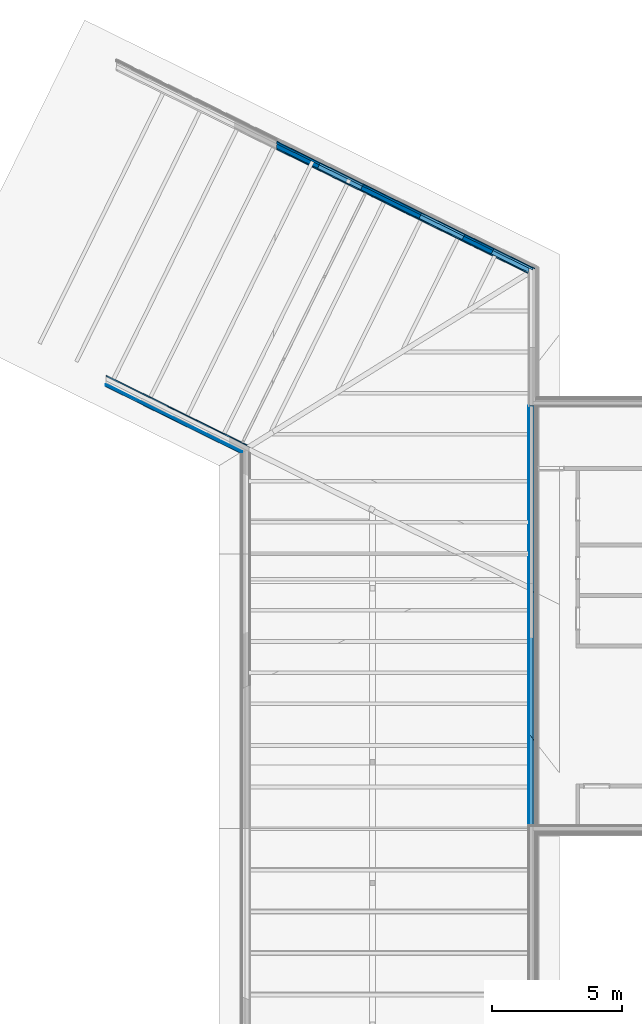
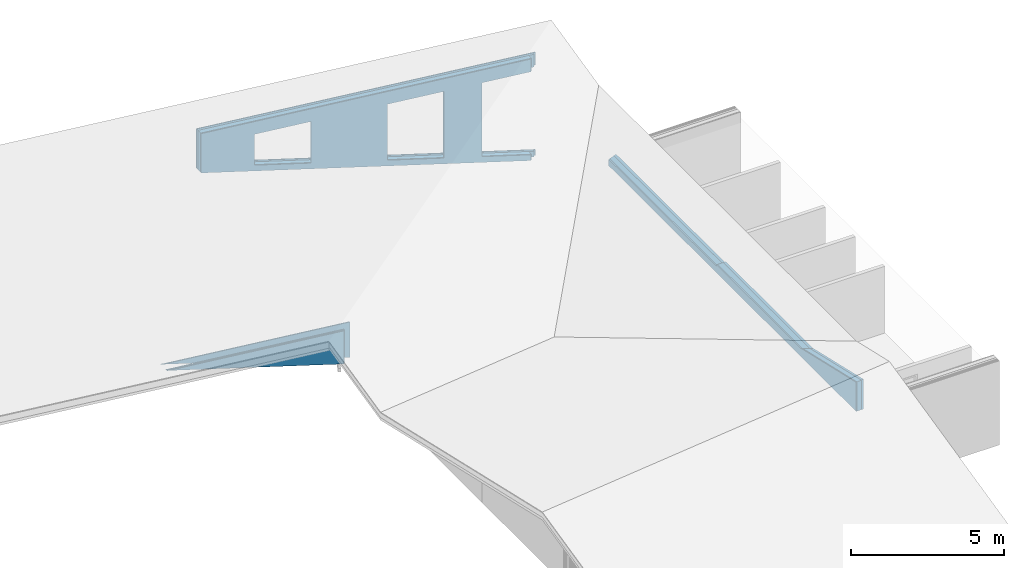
# One storey, part 5 of 14: 11 walls, 12 openings.
"""IFC4 building model written with IfcOpenShell, lengths in metres."""

import ifcopenshell
import ifcopenshell.guid

model = None  # the IFC model being written
_history = None  # IfcOwnerHistory: only IFC2X3 demands one
_inside = {}  # id of a spatial element -> (the spatial element, [elements in it])
_under = {}  # id of a project, library or spatial element -> (it, [spatial elements below it])
_declared = {}  # id of a project -> (the project, [libraries it declares])
_typed = {}  # id of a type object -> (the type object, [elements of that type])
_made_of = {}  # id of a material, layer set ... -> (it, [elements and type objects made of it])


def new_model(schema):
    """Start an empty IFC model of exactly this schema.

    Asked for "IFC4X3", IfcOpenShell would pick the latest addendum, in which some entities
    have other attributes; the version numbers below select the first issue.
    IFC2X3 requires an IfcOwnerHistory on every rooted entity: one is made here for all.
    """
    global model, _history
    if schema == "IFC4X3":
        model = ifcopenshell.file(schema_version=(4, 3, 0, 0))
    else:
        model = ifcopenshell.file(schema=schema)
    _inside.clear()
    _under.clear()
    _declared.clear()
    _typed.clear()
    _made_of.clear()
    _history = None
    if model.schema == "IFC2X3":
        org = make("IfcOrganization", Name="unknown")
        user = make(
            "IfcPersonAndOrganization",
            ThePerson=make("IfcPerson", FamilyName="unknown"),
            TheOrganization=org,
        )
        app = make(
            "IfcApplication",
            ApplicationDeveloper=org,
            Version="unknown",
            ApplicationFullName="unknown",
            ApplicationIdentifier="unknown",
        )
        _history = make(
            "IfcOwnerHistory",
            OwningUser=user,
            OwningApplication=app,
            ChangeAction="ADDED",
            CreationDate=0,
        )
    return model


def make(cls, **values):
    """One entity of the class cls with the attributes given. An attribute that is None is left unset."""
    return model.create_entity(
        cls, **{name: value for name, value in values.items() if value is not None}
    )


def entity(cls, *values):
    """Any entity or typed value of the class cls, its attributes in the order of the schema. None: left unset."""
    e = model.create_entity(cls)
    for i, value in enumerate(values):
        if value is not None:
            e[i] = value
    return e


def rooted(cls, **values):
    """An entity with a GlobalId (a new one), such as an element, a storey or a relation."""
    return make(cls, GlobalId=ifcopenshell.guid.new(), OwnerHistory=_history, **values)


def si_unit(unit_type, name, prefix=None):
    """IfcSIUnit, for example si_unit("LENGTHUNIT", "METRE", prefix="MILLI")."""
    return make("IfcSIUnit", UnitType=unit_type, Prefix=prefix, Name=name)


def converted_unit(unit_type, name, factor, base, dimensions=None, offset=None):
    """IfcConversionBasedUnit, such as the inch: factor (a typed value) times the base unit."""
    return make(
        "IfcConversionBasedUnit"
        if offset is None
        else "IfcConversionBasedUnitWithOffset",
        ConversionOffset=offset,
        Dimensions=None
        if dimensions is None
        else entity("IfcDimensionalExponents", *dimensions),
        UnitType=unit_type,
        Name=name,
        ConversionFactor=make(
            "IfcMeasureWithUnit", ValueComponent=factor, UnitComponent=base
        ),
    )


def derived_unit(unit_type, elements):
    """IfcDerivedUnit: a product of units, each with its exponent."""
    return make(
        "IfcDerivedUnit",
        Elements=[
            make("IfcDerivedUnitElement", Unit=unit, Exponent=power)
            for unit, power in elements
        ],
        UnitType=unit_type,
    )


def assignment(units):
    """IfcUnitAssignment: the units of a project."""
    return None if units is None else make("IfcUnitAssignment", Units=units)


def point(xyz):
    """IfcCartesianPoint."""
    return None if xyz is None else make("IfcCartesianPoint", Coordinates=xyz)


def direction(xyz):
    """IfcDirection."""
    return None if xyz is None else make("IfcDirection", DirectionRatios=xyz)


def frame(location, z_axis=None, x_axis=None):
    """IfcAxis2Placement3D, a coordinate frame: its origin and axes. An axis left out is left unset."""
    return make(
        "IfcAxis2Placement3D",
        Location=point(location),
        Axis=direction(z_axis),
        RefDirection=direction(x_axis),
    )


def frame_2d(location, x_axis=None):
    """IfcAxis2Placement2D, a coordinate frame in the plane: its origin and x axis."""
    return make(
        "IfcAxis2Placement2D", Location=point(location), RefDirection=direction(x_axis)
    )


def origin():
    """The frame at (0, 0, 0) with its axes left unset."""
    return frame((0.0, 0.0, 0.0))


def origin_with_axes():
    """The frame at (0, 0, 0) with the z axis (0, 0, 1) and the x axis (1, 0, 0) written out."""
    return frame((0.0, 0.0, 0.0), z_axis=(0.0, 0.0, 1.0), x_axis=(1.0, 0.0, 0.0))


def place(relative_to, where):
    """IfcLocalPlacement: puts the frame where relative to a parent placement (None: the world)."""
    return make(
        "IfcLocalPlacement", PlacementRelTo=relative_to, RelativePlacement=where
    )


def context(
    kind, dimensions, precision=None, world=None, true_north=None, identifier=None
):
    """IfcGeometricRepresentationContext, for example the 3D "Model" context."""
    return make(
        "IfcGeometricRepresentationContext",
        ContextIdentifier=identifier,
        ContextType=kind,
        CoordinateSpaceDimension=dimensions,
        Precision=precision,
        WorldCoordinateSystem=world,
        TrueNorth=true_north,
    )


def subcontext(parent, identifier, kind, view, scale=None):
    """IfcGeometricRepresentationSubContext, for example "Body" below "Model"."""
    return make(
        "IfcGeometricRepresentationSubContext",
        ContextIdentifier=identifier,
        ContextType=kind,
        ParentContext=parent,
        TargetScale=scale,
        TargetView=view,
    )


def project(units=None, contexts=None):
    """IfcProject with its units and contexts."""
    return rooted(
        "IfcProject",
        Name="project",
        RepresentationContexts=contexts,
        UnitsInContext=assignment(units),
    )


def spatial(cls, under=None, at=None, **own):
    """A site, building, storey or space (cls), placed at a placement, below another one or the project."""
    s = rooted(cls, ObjectPlacement=at, **own)
    if under is not None:
        _under.setdefault(under.id(), (under, []))[1].append(s)
    return s


def polyline(points):
    """IfcPolyline through the points."""
    return make("IfcPolyline", Points=[point(p) for p in points])


def profile(cls, at=None, kind="AREA", **sizes):
    """A parametric profile (cls). Its sizes go by their IFC names, for example OverallWidth=200.0."""
    return make(cls, ProfileType=kind, Position=at, **sizes)


def rectangle(**sizes):
    """IfcRectangleProfileDef."""
    return profile("IfcRectangleProfileDef", **sizes)


def outline(outer, holes=None, kind="AREA"):
    """IfcArbitraryClosedProfileDef: a profile drawn as a closed curve; with holes, ...WithVoids."""
    if holes is None:
        return make("IfcArbitraryClosedProfileDef", ProfileType=kind, OuterCurve=outer)
    return make(
        "IfcArbitraryProfileDefWithVoids",
        ProfileType=kind,
        OuterCurve=outer,
        InnerCurves=holes,
    )


def extrude(swept, where, along, depth):
    """IfcExtrudedAreaSolid: the profile swept, set in the frame where, extruded along a direction by depth."""
    return make(
        "IfcExtrudedAreaSolid",
        SweptArea=swept,
        Position=where,
        ExtrudedDirection=direction(along),
        Depth=depth,
    )


def clip(a, b, op="DIFFERENCE"):
    """IfcBooleanClippingResult: the solid a cut by the half space b."""
    return make(
        "IfcBooleanClippingResult", Operator=op, FirstOperand=a, SecondOperand=b
    )


def halfspace(plane, agree):
    """IfcHalfSpaceSolid: all space on one side of the plane z = 0 of the frame plane."""
    return make(
        "IfcHalfSpaceSolid",
        BaseSurface=make("IfcPlane", Position=plane),
        AgreementFlag=agree,
    )


def bounded_halfspace(plane, agree, where, boundary):
    """IfcPolygonalBoundedHalfSpace: a half space limited to a polygon's prism."""
    return make(
        "IfcPolygonalBoundedHalfSpace",
        BaseSurface=make("IfcPlane", Position=plane),
        AgreementFlag=agree,
        Position=where,
        PolygonalBoundary=boundary,
    )


def faces_of(points, faces, orient=None, outer=None):
    """IfcFace entities. A face is a list of loops; a loop is a list of indices into points, from 0.

    orient and outer hold one flag for each loop. By default every Orientation is true, the
    first loop of a face is its IfcFaceOuterBound and the others are IfcFaceBound.
    """
    made = []
    for i, loops in enumerate(faces):
        bounds = []
        for j, loop in enumerate(loops):
            is_outer = j == 0 if outer is None else outer[i][j]
            bounds.append(
                make(
                    "IfcFaceOuterBound" if is_outer else "IfcFaceBound",
                    Bound=make("IfcPolyLoop", Polygon=[points[k] for k in loop]),
                    Orientation=True if orient is None else orient[i][j],
                )
            )
        made.append(make("IfcFace", Bounds=bounds))
    return made


def faceted_brep(points, faces, orient=None, outer=None, voids=None):
    """IfcFacetedBrep: a solid bounded by flat faces; with voids (closed shells), ...WithVoids."""
    shared = [point(p) for p in points]
    hull = make("IfcClosedShell", CfsFaces=faces_of(shared, faces, orient, outer))
    if voids is None:
        return make("IfcFacetedBrep", Outer=hull)
    return make(
        "IfcFacetedBrepWithVoids",
        Outer=hull,
        Voids=[
            make(cls, CfsFaces=faces_of(shared, fs, o, b)) for cls, fs, o, b in voids
        ],
    )


def shape(context_of_items, identifier, shape_type, items):
    """IfcShapeRepresentation: the items that make up one representation, for example the "Body"."""
    return make(
        "IfcShapeRepresentation",
        ContextOfItems=context_of_items,
        RepresentationIdentifier=identifier,
        RepresentationType=shape_type,
        Items=items,
    )


def material(Name=None, Category=None):
    """IfcMaterial."""
    return make("IfcMaterial", Name=Name, Category=Category)


def made_of(thing, what):
    """Note that an element or type object is made of a material, layer set ...; save() writes the relation."""
    if what is not None:
        _made_of.setdefault(what.id(), (what, []))[1].append(thing)
    return thing


def element(
    cls,
    number,
    at=None,
    inside=None,
    cuts=None,
    type_object=None,
    material=None,
    context=None,
    identifier="Body",
    shape_type=None,
    held_by="IfcProductDefinitionShape",
    body=None,
    shapes=None,
    **own,
):
    """One element of the class cls, such as IfcWall. Its Tag is "e" and its number.

    at: its placement. inside: the storey or other place that contains it. cuts: it is an
    opening in that element (IfcRelVoidsElement). A single representation is given by context,
    identifier, shape_type and body (its items); several are given by shapes. held_by: the class
    of the entity that holds the representations. save() writes the other relations.
    """
    e = rooted(cls, Tag="e%d" % number, ObjectPlacement=at, **own)
    if body is not None:
        shapes = [shape(context, identifier, shape_type, body)]
    if shapes is not None:
        e.Representation = make(held_by, Representations=shapes)
    if inside is not None:
        _inside.setdefault(inside.id(), (inside, []))[1].append(e)
    if cuts is not None:
        rooted(
            "IfcRelVoidsElement", RelatingBuildingElement=cuts, RelatedOpeningElement=e
        )
    if type_object is not None:
        _typed.setdefault(type_object.id(), (type_object, []))[1].append(e)
    return made_of(e, material)


def aggregate(whole, parts):
    """IfcRelAggregates: a whole, such as a stair, and the parts it consists of."""
    return rooted("IfcRelAggregates", RelatingObject=whole, RelatedObjects=parts)


def save(model, path):
    """Write the relations noted so far, then the file.

    IfcRelAggregates (storeys below a building ...), IfcRelContainedInSpatialStructure (elements
    in a storey), IfcRelDefinesByType, IfcRelAssociatesMaterial and IfcRelDeclares: one each for
    every whole, place, type object, material and project.
    """
    for whole, parts in _under.values():
        aggregate(whole, parts)
    for where, things in _inside.values():
        rooted(
            "IfcRelContainedInSpatialStructure",
            RelatedElements=things,
            RelatingStructure=where,
        )
    for kind, things in _typed.values():
        rooted("IfcRelDefinesByType", RelatedObjects=things, RelatingType=kind)
    for what, things in _made_of.values():
        rooted("IfcRelAssociatesMaterial", RelatedObjects=things, RelatingMaterial=what)
    for by, libraries in _declared.values():
        rooted("IfcRelDeclares", RelatingContext=by, RelatedDefinitions=libraries)
    model.write(path)


model = new_model("IFC4")

# Units and contexts
model_context = context("Model", 3, precision=1e-05, world=origin())
body_context = subcontext(model_context, "Body", "Model", "MODEL_VIEW")
ifc_project = project(units=[si_unit("LENGTHUNIT", "METRE"), si_unit("AREAUNIT", "SQUARE_METRE"), si_unit("VOLUMEUNIT", "CUBIC_METRE"), si_unit("MASSUNIT", "GRAM", prefix="KILO"), converted_unit("PLANEANGLEUNIT", "DEGREE", entity("IfcPlaneAngleMeasure", 0.0174532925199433), si_unit("PLANEANGLEUNIT", "RADIAN"), dimensions=[0, 0, 0, 0, 0, 0, 0]), derived_unit("THERMALTRANSMITTANCEUNIT", [(si_unit("POWERUNIT", "WATT"), 1), (si_unit("THERMODYNAMICTEMPERATUREUNIT", "KELVIN"), -1), (si_unit("LENGTHUNIT", "METRE"), -2)]), derived_unit("VOLUMETRICFLOWRATEUNIT", [(si_unit("LENGTHUNIT", "METRE"), 3), (converted_unit("TIMEUNIT", "hour", entity("IfcTimeMeasure", 3600.0), si_unit("TIMEUNIT", "SECOND"), dimensions=[0, 0, 1, 0, 0, 0, 0]), -1), (si_unit("LENGTHUNIT", "METRE"), -1)])], contexts=[model_context])

# Site, building, storey
site_placement = place(None, origin())
site = spatial("IfcSite", under=ifc_project, at=site_placement, Name="Psychiatrie Neubau Wunstorf", CompositionType="ELEMENT")
building_placement = place(site_placement, origin())
building = spatial("IfcBuilding", under=site, at=building_placement, Name="Neubau H1 Sozialzentrum", CompositionType="ELEMENT")
storey_placement = place(building_placement, frame((0.0, 0.0, 4.45)))
storey = spatial("IfcBuildingStorey", under=building, at=storey_placement, Name="H1 Ebene +1", CompositionType="ELEMENT", Elevation=4.45)

# Walls
ifc_material_1 = material(Name="WA-LB")
wall_1_placement = place(storey_placement, frame((-15.8625266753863, 26.5713299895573, -0.161786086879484), z_axis=(0.0, 0.0, 1.0), x_axis=(-0.896905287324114, 0.442222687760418, 0.0)))
element("IfcWall", 1, at=wall_1_placement, inside=storey, material=ifc_material_1, context=body_context, shape_type="Clipping", body=[
    clip(clip(clip(clip(clip(extrude(outline(polyline([(-4.95448464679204, -2.48757993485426), (1.22578052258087, -2.48757993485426), (1.20876112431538, -2.45157987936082), (-4.97223461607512, -2.45157987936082), (-4.95448464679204, -2.48757993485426)])), frame((4.95448464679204, 2.48757993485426, 0.0), z_axis=(0.0, 0.0, 1.0), x_axis=(1.0, 0.0, 0.0)), (0.0, 0.0, 1.0), 1.42148967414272), bounded_halfspace(frame((6.1461335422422, 0.018000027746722, 0.00589304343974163), z_axis=(0.222899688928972, 0.105378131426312, 0.969129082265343), x_axis=(-0.427404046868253, 0.904060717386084, 0.0)), True, origin_with_axes(), polyline([(6.18026516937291, 0.0), (6.16324577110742, 0.0360000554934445), (6.11200191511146, 0.0360000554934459), (6.12902131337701, 0.0), (6.18026516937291, 0.0)]))), bounded_halfspace(frame((3.05581831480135, 0.0180000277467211, 0.0117860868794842), z_axis=(-7.41913311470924e-17, 1.25960238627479e-14, 1.0), x_axis=(1.0, -5.55111512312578e-17, 0.0)), True, origin_with_axes(), polyline([(0.0, 0.0), (6.12902131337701, 0.0), (6.11200191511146, 0.0360000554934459), (-0.0177499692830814, 0.0360000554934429), (0.0, 0.0)]))), bounded_halfspace(frame((6.1461335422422, 0.0180000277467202, 0.0117860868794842), z_axis=(0.0, 0.0, -1.0), x_axis=(-1.0, 2.96429547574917e-14, 0.0)), True, origin_with_axes(), polyline([(6.16324577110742, 0.0360000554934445), (6.11200191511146, 0.0360000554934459), (6.12902131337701, 0.0), (6.18026516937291, 0.0), (6.16324577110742, 0.0360000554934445)]))), bounded_halfspace(frame((2.45081020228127, 0.0155636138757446, 0.856082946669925), z_axis=(-0.222900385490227, -0.105357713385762, -0.969131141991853), x_axis=(0.974555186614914, 0.0, -0.224147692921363)), True, origin_with_axes(), polyline([(0.0, 0.0), (6.12902131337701, 0.0), (6.11200191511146, 0.0360000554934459), (0.0158963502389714, 0.0360000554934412), (-0.00286856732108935, 0.00581795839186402), (0.0, 0.0)]))), bounded_halfspace(frame((-0.00157406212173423, 0.0259393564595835, 1.41637714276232), z_axis=(0.00409122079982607, -0.246504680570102, -0.969132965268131), x_axis=(-0.999991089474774, 5.21804821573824e-14, -0.004221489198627)), True, origin_with_axes(), polyline([(0.0158963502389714, 0.0360000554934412), (-0.0177499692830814, 0.0360000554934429), (-0.00286856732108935, 0.00581795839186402), (0.0158963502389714, 0.0360000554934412)]))),
])
ifc_material_2 = material(Name="WA-KL")
wall_2_placement = place(storey_placement, frame((-16.1745267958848, 26.3772999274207, -0.161786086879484), z_axis=(0.0, 0.0, 1.0), x_axis=(-0.896905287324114, 0.442222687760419, 0.0)))
element("IfcWall", 2, at=wall_2_placement, inside=storey, material=ifc_material_2, context=body_context, shape_type="Clipping", body=[
    clip(clip(clip(clip(clip(extrude(outline(polyline([(-4.68546425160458, -2.34002108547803), (1.15326957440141, -2.34002108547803), (1.14192332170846, -2.31602107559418), (-4.69729755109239, -2.31602107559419), (-4.68546425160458, -2.34002108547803)])), frame((4.68546425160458, 2.34002108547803, 0.0), z_axis=(0.0, 0.0, 1.0), x_axis=(1.0, 0.0, 0.0)), (0.0, 0.0, 1.0), 1.34293768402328), bounded_halfspace(frame((5.80743877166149, 0.0120000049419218, 0.00589304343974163), z_axis=(0.222899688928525, 0.1053781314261, 0.969129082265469), x_axis=(-0.42740404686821, 0.904060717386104, 0.0)), True, origin_with_axes(), polyline([(5.83873382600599, 0.0), (5.82738757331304, 0.0240000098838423), (5.77614371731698, 0.0240000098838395), (5.78748997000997, 0.0), (5.83873382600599, 0.0)]))), bounded_halfspace(frame((2.88795009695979, 0.0120000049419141, 0.0117860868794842), z_axis=(0.0, 0.0, 1.0), x_axis=(1.0, 5.55111512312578e-17, 0.0)), True, origin_with_axes(), polyline([(0.0, 0.0), (5.78748997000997, 0.0), (5.77614371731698, 0.0240000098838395), (-0.0118332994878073, 0.0240000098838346), (0.0, 0.0)]))), bounded_halfspace(frame((5.8074387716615, 0.0120000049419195, 0.0117860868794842), z_axis=(0.0, 0.0, -1.0), x_axis=(-1.0, -5.52335954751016e-14, 0.0)), True, origin_with_axes(), polyline([(5.82738757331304, 0.0240000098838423), (5.77614371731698, 0.0240000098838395), (5.78748997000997, 0.0), (5.83873382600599, 0.0), (5.82738757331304, 0.0240000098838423)]))), bounded_halfspace(frame((2.31382507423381, 0.0107729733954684, 0.809558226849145), z_axis=(-0.222900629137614, -0.105347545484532, -0.969132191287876), x_axis=(0.974555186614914, 5.55111512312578e-17, -0.224147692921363)), True, origin_with_axes(), polyline([(0.0, 0.0), (5.78748997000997, 0.0), (5.77614371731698, 0.0240000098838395), (0.00838336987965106, 0.0240000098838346), (-0.00289168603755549, 0.00586484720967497), (0.0, 0.0)]))), bounded_halfspace(frame((-0.00211387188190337, 0.017954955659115, 1.33986577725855), z_axis=(0.00409122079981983, -0.246504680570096, -0.969132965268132), x_axis=(-0.999991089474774, -1.94289029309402e-15, -0.00422148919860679)), True, origin_with_axes(), polyline([(0.00838336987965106, 0.0240000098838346), (-0.0118332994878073, 0.0240000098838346), (-0.00289168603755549, 0.00586484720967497), (0.00838336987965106, 0.0240000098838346)]))),
])
ifc_material_3 = material(Name="WA-TL")
wall_3_placement = place(storey_placement, frame((-16.1985268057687, 26.3623745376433, -0.161786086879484), z_axis=(0.0, 0.0, 1.0), x_axis=(-0.896905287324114, 0.442222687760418, 0.0)))
element("IfcWall", 3, at=wall_3_placement, inside=storey, material=ifc_material_3, context=body_context, shape_type="Clipping", body=[
    clip(clip(clip(clip(clip(extrude(outline(polyline([(-4.66433031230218, -2.32960092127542), (1.14813187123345, -2.32960092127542), (1.13678561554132, -2.30560090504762), (-4.67616361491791, -2.30560090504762), (-4.66433031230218, -2.32960092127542)])), frame((4.66433031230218, 2.32960092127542, 0.0), z_axis=(0.0, 0.0, 1.0), x_axis=(1.0, 0.0, 0.0)), (0.0, 0.0, 1.0), 1.3368952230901), bounded_halfspace(frame((5.78116712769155, 0.0120000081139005, 0.00589304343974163), z_axis=(0.2228996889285, 0.105378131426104, 0.969129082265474), x_axis=(-0.427404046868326, 0.904060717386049, 0.0)), True, origin_with_axes(), polyline([(5.81246218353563, 0.0), (5.80111592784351, 0.0240000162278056), (5.74987207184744, 0.0240000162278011), (5.7612183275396, 0.0), (5.81246218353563, 0.0)]))), bounded_halfspace(frame((2.87481427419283, 0.0120000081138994, 0.0117860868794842), z_axis=(0.0, 0.0, 1.0), x_axis=(1.0, 5.55111512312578e-17, 0.0)), True, origin_with_axes(), polyline([(0.0, 0.0), (5.7612183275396, 0.0), (5.74987207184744, 0.0240000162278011), (-0.0118333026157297, 0.0240000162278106), (0.0, 0.0)]))), bounded_halfspace(frame((5.78116712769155, 0.0120000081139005, 0.0117860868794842), z_axis=(0.0, 0.0, -1.0), x_axis=(-1.0, -8.57092175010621e-14, 0.0)), True, origin_with_axes(), polyline([(5.80111592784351, 0.0240000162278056), (5.74987207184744, 0.0240000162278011), (5.7612183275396, 0.0), (5.81246218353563, 0.0), (5.80111592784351, 0.0240000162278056)]))), bounded_halfspace(frame((2.30331525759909, 0.0107736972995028, 0.805932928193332), z_axis=(-0.222900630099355, -0.105347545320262, -0.969132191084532), x_axis=(0.974555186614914, 5.55111512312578e-17, -0.224147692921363)), True, origin_with_axes(), polyline([(0.0, 0.0), (5.7612183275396, 0.0), (5.74987207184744, 0.0240000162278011), (0.00837935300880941, 0.0240000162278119), (-0.00289346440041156, 0.00586845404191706), (0.0, 0.0)]))), bounded_halfspace(frame((-0.00211580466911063, 0.0179561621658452, 1.33382392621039), z_axis=(0.00409122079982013, -0.246504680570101, -0.969132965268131), x_axis=(-0.999991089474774, -6.38933350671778e-14, -0.00422148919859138)), True, origin_with_axes(), polyline([(0.00837935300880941, 0.0240000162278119), (-0.0118333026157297, 0.0240000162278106), (-0.00289346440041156, 0.00586845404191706), (0.00837935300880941, 0.0240000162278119)]))),
])
ifc_material_4 = material(Name="WA-HS")
wall_4_placement = place(storey_placement, frame((-16.2225268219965, 26.3474491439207, -0.161786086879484), z_axis=(0.0, 0.0, 1.0), x_axis=(-0.896905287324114, 0.442222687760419, 0.0)))
element("IfcWall", 4, at=wall_4_placement, inside=storey, material=ifc_material_4, context=body_context, shape_type="Clipping", body=[
    clip(clip(clip(clip(clip(extrude(outline(polyline([(-4.63461525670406, -2.33732561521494), (1.15157527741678, -2.33732561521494), (1.13171934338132, -2.29532561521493), (-4.65532352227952, -2.29532561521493), (-4.63461525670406, -2.33732561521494)])), frame((4.63461525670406, 2.33732561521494, 0.0), z_axis=(0.0, 0.0, 1.0), x_axis=(1.0, 0.0, 0.0)), (0.0, 0.0, 1.0), 1.3308527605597), bounded_halfspace(frame((5.75064063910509, 0.0210000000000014, 0.00589304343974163), z_axis=(0.222899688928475, 0.105378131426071, 0.969129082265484), x_axis=(-0.427404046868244, 0.904060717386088, 0.0)), True, origin_with_axes(), polyline([(5.78619053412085, 0.0), (5.76633460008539, 0.0420000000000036), (5.7150907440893, 0.0420000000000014), (5.73494667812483, 0.0), (5.78619053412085, 0.0)]))), bounded_halfspace(frame((2.85733228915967, 0.0209999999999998, 0.0117860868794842), z_axis=(0.0, 0.0, 1.0), x_axis=(1.0, 5.55111512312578e-17, 0.0)), True, origin_with_axes(), polyline([(0.0, 0.0), (5.73494667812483, 0.0), (5.7150907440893, 0.0420000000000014), (-0.0207082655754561, 0.0420000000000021), (0.0, 0.0)]))), bounded_halfspace(frame((5.75064063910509, 0.0210000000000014, 0.0117860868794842), z_axis=(0.0, 0.0, -1.0), x_axis=(-1.0, -5.26800825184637e-14, 0.0)), True, origin_with_axes(), polyline([(5.76633460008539, 0.0420000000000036), (5.7150907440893, 0.0420000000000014), (5.73494667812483, 0.0), (5.78619053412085, 0.0), (5.76633460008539, 0.0420000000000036)]))), bounded_halfspace(frame((2.29334170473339, 0.0179744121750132, 0.801401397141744), z_axis=(-0.222900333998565, -0.105360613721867, -0.969130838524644), x_axis=(0.974555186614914, 1.11022302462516e-16, -0.224147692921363)), True, origin_with_axes(), polyline([(0.0, 0.0), (5.73494667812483, 0.0), (5.7150907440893, 0.0420000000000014), (0.0195663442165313, 0.042000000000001), (-0.00289524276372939, 0.00587206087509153), (0.0, 0.0)]))), bounded_halfspace(frame((-0.00134572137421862, 0.0299573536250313, 1.32473306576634), z_axis=(0.00409122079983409, -0.246504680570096, -0.969132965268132), x_axis=(-0.999991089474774, 2.84772205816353e-14, -0.00422148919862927)), True, origin_with_axes(), polyline([(0.0195663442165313, 0.042000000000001), (-0.0207082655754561, 0.0420000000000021), (-0.00289524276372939, 0.00587206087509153), (0.0195663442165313, 0.042000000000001)]))),
])

# Wall, openings
ifc_material_5 = material(Name="WA-LB")
wall_5_placement = place(storey_placement, frame((-14.852996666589, 37.9944028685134, -0.1), z_axis=(0.0, 0.0, 1.0), x_axis=(0.896905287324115, -0.442222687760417, 0.0)))
wall_5 = element("IfcWall", 5, at=wall_5_placement, inside=storey, material=ifc_material_5, context=body_context, shape_type="Clipping", body=[
    clip(extrude(outline(polyline([(-2.11203472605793, 4.28357740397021), (8.68784738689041, 4.28357740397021), (8.67009741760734, 4.31957745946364), (-2.12904798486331, 4.31957745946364), (-2.11203472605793, 4.28357740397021)])), frame((2.11203472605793, -4.28357740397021, 0.0), z_axis=(0.0, 0.0, 1.0), x_axis=(1.0, 0.0, 0.0)), (0.0, 0.0, 1.0), 4.05262443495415), halfspace(frame((5.39125024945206, 0.018000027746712, 2.81059633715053), z_axis=(0.222899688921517, 0.105378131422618, -0.96912908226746), x_axis=(0.974555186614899, 0.0, 0.224147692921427)), True)),
])
opening_1_placement = place(wall_5_placement, frame((2.10961584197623, -0.733768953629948, 0.23)))
element("IfcOpeningElement", 6, at=opening_1_placement, cuts=wall_5, Name="Fensteröffnung", ObjectType="Opening", context=body_context, shape_type="Brep", body=[
    faceted_brep([(1.48821232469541, 0.733768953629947, 0.0), (1.48821232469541, 0.769769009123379, 0.0), (-0.361787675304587, 0.769769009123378, 0.0), (-0.361787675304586, 0.733768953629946, 0.0), (1.48821232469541, 0.769769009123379, 1.66185257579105), (1.48821232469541, 0.733768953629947, 1.65793811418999), (-0.361787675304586, 0.733768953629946, 1.23243811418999), (-0.361787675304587, 0.769769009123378, 1.23635257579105)], [[[0, 1, 2, 3]], [[4, 5, 6, 7]], [[1, 0, 5, 4]], [[2, 1, 4, 7]], [[3, 2, 7, 6]], [[0, 3, 6, 5]]], orient=[[False], [False], [False], [False], [False], [False]]),
])
opening_2_placement = place(wall_5_placement, frame((9.1978309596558, 0.0, 0.23)))
element("IfcOpeningElement", 7, at=opening_2_placement, cuts=wall_5, Name="Fensteröffnung", ObjectType="Opening", context=body_context, shape_type="Brep", body=[
    faceted_brep([(1.60205115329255, 0.0, 0.0), (0.0, 0.0, 0.0), (0.0, 0.0, 2.94593875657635), (1.60205115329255, 0.0, 3.31441052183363), (0.0, 0.0360000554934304, 0.0), (0.0, 0.0360000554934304, 2.94985321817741), (1.62443924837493, 0.0360000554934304, 0.0), (1.62443924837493, 0.0360000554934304, 3.32347424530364)], [[[0, 1, 2, 3]], [[1, 4, 5, 2]], [[4, 6, 7, 5]], [[6, 0, 3, 7]], [[7, 3, 2, 5]], [[0, 6, 4, 1]]], orient=[[False], [False], [False], [False], [False], [False]]),
])
opening_3_placement = place(wall_5_placement, frame((6.45961863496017, -0.733768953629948, 0.23)))
element("IfcOpeningElement", 8, at=opening_3_placement, cuts=wall_5, Name="Fensteröffnung", ObjectType="Opening", context=body_context, shape_type="Brep", body=[
    faceted_brep([(1.48821232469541, 0.733768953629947, 0.0), (1.48821232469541, 0.769769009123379, 0.0), (-0.361787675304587, 0.769769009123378, 0.0), (-0.361787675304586, 0.733768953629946, 0.0), (1.48821232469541, 0.769769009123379, 2.66235321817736), (1.48821232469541, 0.733768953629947, 2.6584387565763), (-0.361787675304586, 0.733768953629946, 2.2329387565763), (-0.361787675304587, 0.769769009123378, 2.23685321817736)], [[[0, 1, 2, 3]], [[4, 5, 6, 7]], [[1, 0, 5, 4]], [[2, 1, 4, 7]], [[3, 2, 7, 6]], [[0, 3, 6, 5]]], orient=[[False], [False], [False], [False], [False], [False]]),
])

ifc_material_6 = material(Name="WA-HD")
wall_6_placement = place(storey_placement, frame((-14.8523359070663, 38.0342151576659, -0.1), z_axis=(0.0, 0.0, 1.0), x_axis=(0.896905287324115, -0.442222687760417, 0.0)))
wall_6 = element("IfcWall", 9, at=wall_6_placement, inside=storey, material=ifc_material_6, context=body_context, shape_type="Clipping", body=[
    clip(extrude(outline(polyline([(-2.11974008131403, 4.29920521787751), (8.71954333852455, 4.29920521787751), (8.64065468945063, 4.45920525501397), (-2.19535446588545, 4.45920525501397), (-2.11974008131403, 4.29920521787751)])), frame((2.11974008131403, -4.29920521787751, 0.0), z_axis=(0.0, 0.0, 1.0), x_axis=(1.0, 0.0, 0.0)), (0.0, 0.0, 1.0), 4.06168814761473), halfspace(frame((5.38101595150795, 0.0800000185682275, 2.81498542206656), z_axis=(0.222899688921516, 0.105378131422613, -0.96912908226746), x_axis=(0.974555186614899, 0.0, 0.224147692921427)), True)),
])
opening_4_placement = place(wall_6_placement, frame((2.1266291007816, -0.733768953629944, 0.23)))
element("IfcOpeningElement", 10, at=opening_4_placement, cuts=wall_6, Name="Fensteröffnung", ObjectType="Opening", context=body_context, shape_type="Brep", body=[
    faceted_brep([(1.48821232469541, 0.733768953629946, 0.0), (1.48821232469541, 0.893768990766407, 0.0), (-0.361787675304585, 0.893768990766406, 0.0), (-0.361787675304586, 0.733768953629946, 0.0), (1.48821232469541, 0.893768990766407, 1.67925016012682), (1.48821232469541, 0.733768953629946, 1.66185257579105), (-0.361787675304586, 0.733768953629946, 1.23635257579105), (-0.361787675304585, 0.893768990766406, 1.25375016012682)], [[[0, 1, 2, 3]], [[4, 5, 6, 7]], [[1, 0, 5, 4]], [[2, 1, 4, 7]], [[3, 2, 7, 6]], [[0, 3, 6, 5]]], orient=[[False], [False], [False], [False], [False], [False]]),
])
opening_5_placement = place(wall_6_placement, frame((9.21484421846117, 0.0, 0.23)))
element("IfcOpeningElement", 11, at=opening_5_placement, cuts=wall_6, Name="Fensteröffnung", ObjectType="Opening", context=body_context, shape_type="Brep", body=[
    faceted_brep([(1.62443924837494, 0.0, 0.0), (0.0, 0.0, 0.0), (0.0, 0.0, 2.94985321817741), (1.62443924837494, 0.0, 3.32347424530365), (0.0, 0.160000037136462, 0.0), (0.0, 0.160000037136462, 2.96725080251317), (1.72394176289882, 0.160000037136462, 0.0), (1.72394176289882, 0.160000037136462, 3.3637574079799)], [[[0, 1, 2, 3]], [[1, 4, 5, 2]], [[4, 6, 7, 5]], [[6, 0, 3, 7]], [[7, 3, 2, 5]], [[0, 6, 4, 1]]], orient=[[False], [False], [False], [False], [False], [False]]),
])
opening_6_placement = place(wall_6_placement, frame((6.47663189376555, -0.733768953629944, 0.23)))
element("IfcOpeningElement", 12, at=opening_6_placement, cuts=wall_6, Name="Fensteröffnung", ObjectType="Opening", context=body_context, shape_type="Brep", body=[
    faceted_brep([(1.48821232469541, 0.733768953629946, 0.0), (1.48821232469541, 0.893768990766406, 0.0), (-0.361787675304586, 0.893768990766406, 0.0), (-0.361787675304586, 0.733768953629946, 0.0), (1.48821232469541, 0.893768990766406, 2.67975080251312), (1.48821232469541, 0.733768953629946, 2.66235321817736), (-0.361787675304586, 0.733768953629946, 2.23685321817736), (-0.361787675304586, 0.893768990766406, 2.25425080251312)], [[[0, 1, 2, 3]], [[4, 5, 6, 7]], [[1, 0, 5, 4]], [[2, 1, 4, 7]], [[3, 2, 7, 6]], [[0, 3, 6, 5]]], orient=[[False], [False], [False], [False], [False], [False]]),
])

ifc_material_7 = material(Name="WA-DL")
wall_7_placement = place(storey_placement, frame((-14.849399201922, 38.2111584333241, -0.1), z_axis=(0.0, 0.0, 1.0), x_axis=(0.896905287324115, -0.442222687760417, 0.0)))
wall_7 = element("IfcWall", 13, at=wall_7_placement, inside=storey, material=ifc_material_7, context=body_context, shape_type="Clipping", body=[
    clip(extrude(outline(polyline([(-2.15398610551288, 4.36866217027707), (8.8604142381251, 4.36866217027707), (8.82096991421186, 4.44866218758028), (-2.19179329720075, 4.44866218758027), (-2.15398610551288, 4.36866217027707)])), frame((2.15398610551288, -4.36866217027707, 0.0), z_axis=(0.0, 0.0, 1.0), x_axis=(1.0, 0.0, 0.0)), (0.0, 0.0, 1.0), 4.10197131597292), halfspace(frame((5.48788729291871, 0.0400000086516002, 2.83522271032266), z_axis=(0.222899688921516, 0.105378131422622, -0.96912908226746), x_axis=(0.9745551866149, 5.55111512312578e-17, 0.224147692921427)), True)),
])
opening_7_placement = place(wall_7_placement, frame((2.20224348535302, -0.733768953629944, 0.23)))
element("IfcOpeningElement", 14, at=opening_7_placement, cuts=wall_7, Name="Fensteröffnung", ObjectType="Opening", context=body_context, shape_type="Brep", body=[
    faceted_brep([(1.48821232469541, 0.733768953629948, 0.0), (1.48821232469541, 0.813768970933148, 0.0), (-0.361787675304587, 0.813768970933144, 0.0), (-0.361787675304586, 0.733768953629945, 0.0), (1.48821232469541, 0.813768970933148, 1.68794895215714), (1.48821232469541, 0.733768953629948, 1.67925016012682), (-0.361787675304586, 0.733768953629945, 1.25375016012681), (-0.361787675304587, 0.813768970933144, 1.26244895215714)], [[[0, 1, 2, 3]], [[4, 5, 6, 7]], [[1, 0, 5, 4]], [[2, 1, 4, 7]], [[3, 2, 7, 6]], [[0, 3, 6, 5]]], orient=[[False], [False], [False], [False], [False], [False]]),
])
opening_8_placement = place(wall_7_placement, frame((9.2904586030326, 0.0, 0.23)))
element("IfcOpeningElement", 15, at=opening_8_placement, cuts=wall_7, Name="Fensteröffnung", ObjectType="Opening", context=body_context, shape_type="Brep", body=[
    faceted_brep([(1.72394176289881, 0.0, 0.0), (0.0, 0.0, 0.0), (0.0, 0.0, 2.96725080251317), (1.72394176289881, 0.0, 3.3637574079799), (0.0, 0.0800000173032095, 0.0), (0.0, 0.0800000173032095, 2.9759495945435), (1.77369301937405, 0.0800000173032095, 0.0), (1.77369301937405, 0.0800000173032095, 3.38389898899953)], [[[0, 1, 2, 3]], [[1, 4, 5, 2]], [[4, 6, 7, 5]], [[6, 0, 3, 7]], [[7, 3, 2, 5]], [[0, 6, 4, 1]]], orient=[[False], [False], [False], [False], [False], [False]]),
])
opening_9_placement = place(wall_7_placement, frame((6.55224627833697, -0.733768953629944, 0.23)))
element("IfcOpeningElement", 16, at=opening_9_placement, cuts=wall_7, Name="Fensteröffnung", ObjectType="Opening", context=body_context, shape_type="Brep", body=[
    faceted_brep([(1.48821232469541, 0.733768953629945, 0.0), (1.48821232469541, 0.813768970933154, 0.0), (-0.361787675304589, 0.813768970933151, 0.0), (-0.361787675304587, 0.733768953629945, 0.0), (1.48821232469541, 0.813768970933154, 2.68844959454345), (1.48821232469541, 0.733768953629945, 2.67975080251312), (-0.361787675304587, 0.733768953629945, 2.25425080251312), (-0.361787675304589, 0.813768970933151, 2.26294959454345)], [[[0, 1, 2, 3]], [[4, 5, 6, 7]], [[1, 0, 5, 4]], [[2, 1, 4, 7]], [[3, 2, 7, 6]], [[0, 3, 6, 5]]], orient=[[False], [False], [False], [False], [False], [False]]),
])

ifc_material_8 = material(Name="WA-LB")
wall_8_placement = place(storey_placement, frame((-14.847930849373, 38.2996300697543, -0.1), z_axis=(0.0, 0.0, 1.0), x_axis=(0.896905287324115, -0.442222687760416, 0.0)))
wall_8 = element("IfcWall", 17, at=wall_8_placement, inside=storey, material=ifc_material_8, context=body_context, shape_type="Clipping", body=[
    clip(extrude(outline(polyline([(-2.17110911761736, 4.40339064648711), (8.9308496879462, 4.40339064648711), (8.91309974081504, 4.43939065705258), (-2.18812235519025, 4.43939065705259), (-2.17110911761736, 4.40339064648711)])), frame((2.17110911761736, -4.40339064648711, 0.0), z_axis=(0.0, 0.0, 1.0), x_axis=(1.0, 0.0, 0.0)), (0.0, 0.0, 1.0), 4.12211290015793), halfspace(frame((5.54228860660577, 0.0180000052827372, 2.84534598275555), z_axis=(0.222899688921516, 0.105378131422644, -0.969129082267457), x_axis=(0.9745551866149, -5.55111512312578e-17, 0.224147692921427)), True)),
])
opening_10_placement = place(wall_8_placement, frame((2.2400506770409, -0.733768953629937, 0.23)))
element("IfcOpeningElement", 18, at=opening_10_placement, cuts=wall_8, Name="Fensteröffnung", ObjectType="Opening", context=body_context, shape_type="Brep", body=[
    faceted_brep([(1.48821232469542, 0.733768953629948, 0.0), (1.48821232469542, 0.769768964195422, 0.0), (-0.361787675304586, 0.769768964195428, 0.0), (-0.361787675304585, 0.733768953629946, 0.0), (1.48821232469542, 0.769768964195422, 1.69186340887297), (1.48821232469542, 0.733768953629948, 1.68794895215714), (-0.361787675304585, 0.733768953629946, 1.26244895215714), (-0.361787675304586, 0.769768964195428, 1.26636340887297)], [[[0, 1, 2, 3]], [[4, 5, 6, 7]], [[1, 0, 5, 4]], [[2, 1, 4, 7]], [[3, 2, 7, 6]], [[0, 3, 6, 5]]], orient=[[False], [False], [False], [False], [False], [False]]),
])
opening_11_placement = place(wall_8_placement, frame((9.32826579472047, 0.0, 0.23)))
element("IfcOpeningElement", 19, at=opening_11_placement, cuts=wall_8, Name="Fensteröffnung", ObjectType="Opening", context=body_context, shape_type="Brep", body=[
    faceted_brep([(1.77369301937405, 0.0, 0.0), (0.0, 0.0, 0.0), (0.0, 0.0, 2.9759495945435), (1.77369301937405, 0.0, 3.38389898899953), (0.0, 0.0360000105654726, 0.0), (0.0, 0.0360000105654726, 2.97986405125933), (1.79608108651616, 0.036000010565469, 0.0), (1.79608108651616, 0.036000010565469, 3.39296270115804)], [[[0, 1, 2, 3]], [[1, 4, 5, 2]], [[4, 6, 7, 5]], [[6, 0, 3, 7]], [[7, 3, 2, 5]], [[0, 6, 4, 1]]], orient=[[False], [False], [False], [False], [False], [False]]),
])
opening_12_placement = place(wall_8_placement, frame((6.59005347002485, -0.733768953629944, 0.23)))
element("IfcOpeningElement", 20, at=opening_12_placement, cuts=wall_8, Name="Fensteröffnung", ObjectType="Opening", context=body_context, shape_type="Brep", body=[
    faceted_brep([(1.48821232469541, 0.733768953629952, 0.0), (1.48821232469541, 0.769768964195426, 0.0), (-0.36178767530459, 0.769768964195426, 0.0), (-0.36178767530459, 0.733768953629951, 0.0), (1.48821232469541, 0.769768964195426, 2.69236405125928), (1.48821232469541, 0.733768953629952, 2.68844959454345), (-0.36178767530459, 0.733768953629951, 2.26294959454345), (-0.36178767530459, 0.769768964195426, 2.26686405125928)], [[[0, 1, 2, 3]], [[4, 5, 6, 7]], [[1, 0, 5, 4]], [[2, 1, 4, 7]], [[3, 2, 7, 6]], [[0, 3, 6, 5]]], orient=[[False], [False], [False], [False], [False], [False]]),
])

# Walls
ifc_material_9 = material(Name="WA-LB")
wall_9_placement = place(storey_placement, frame((-5.16652529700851, 28.1302445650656, 2.78), z_axis=(0.0, 0.0, 1.0), x_axis=(-1.124638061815e-16, -1.0, 0.0)))
element("IfcWall", 21, at=wall_9_placement, inside=storey, material=ifc_material_9, context=body_context, shape_type="Clipping", body=[
    clip(clip(clip(extrude(rectangle(XDim=16.1739982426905, YDim=0.0359999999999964, at=frame_2d((8.08699912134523, 0.0179999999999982), x_axis=(1.0, 0.0))), origin_with_axes(), (0.0, 0.0, 1.0), 1.16828108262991), bounded_halfspace(frame((14.3878904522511, 0.0179999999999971, 0.75551976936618), z_axis=(0.222900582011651, 0.105340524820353, -0.969132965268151), x_axis=(-0.974555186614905, -1.09602185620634e-16, -0.224147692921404)), True, origin_with_axes(), polyline([(16.1739982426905, 0.0359999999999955), (12.6249495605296, 0.0359999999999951), (12.5786157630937, 0.0), (16.1739982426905, 0.0), (16.1739982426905, 0.0359999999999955)]))), bounded_halfspace(frame((3.53001229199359, 0.0179999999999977, 0.265434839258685), z_axis=(-8.71110270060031e-15, 0.37515708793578, -0.926961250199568), x_axis=(0.415683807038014, 0.843079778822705, 0.341208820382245)), True, origin_with_axes(), polyline([(7.0511496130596, 0.0), (7.06889955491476, 0.0359999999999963), (0.0, 0.0359999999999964), (0.0, 0.0), (7.0511496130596, 0.0)]))), bounded_halfspace(frame((9.83090362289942, 0.0179999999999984, 0.330162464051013), z_axis=(-8.57596917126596e-15, 0.375157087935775, -0.92696125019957), x_axis=(-0.41568380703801, -0.843079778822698, -0.341208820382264)), True, origin_with_axes(), polyline([(7.06889955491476, 0.0359999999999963), (7.0511496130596, 0.0), (12.5786157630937, 0.0), (12.6249495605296, 0.035999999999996), (7.06889955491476, 0.0359999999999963)]))),
])
ifc_material_10 = material(Name="WA-HD")
wall_10_placement = place(storey_placement, frame((-5.13052529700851, 28.1302445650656, 2.78), z_axis=(0.0, 0.0, 1.0), x_axis=(-1.124638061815e-16, -1.0, 0.0)))
element("IfcWall", 22, at=wall_10_placement, inside=storey, material=ifc_material_10, context=body_context, shape_type="Clipping", body=[
    clip(clip(clip(extrude(rectangle(XDim=16.1739982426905, YDim=0.16, at=frame_2d((8.08699912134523, 0.08), x_axis=(1.0, 0.0))), origin_with_axes(), (0.0, 0.0, 1.0), 1.18567238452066), bounded_halfspace(frame((14.450955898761, 0.0799999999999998, 0.780676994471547), z_axis=(0.222900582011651, 0.105340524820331, -0.969132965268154), x_axis=(-0.974555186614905, -1.09602185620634e-16, -0.224147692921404)), True, origin_with_axes(), polyline([(16.1739982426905, 0.16), (12.8308775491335, 0.16), (12.6249495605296, 0.0), (16.1739982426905, 0.0), (16.1739982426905, 0.16)]))), bounded_halfspace(frame((3.55417193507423, 0.0799999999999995, 0.305097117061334), z_axis=(-8.71137361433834e-15, 0.375157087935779, -0.926961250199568), x_axis=(0.415683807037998, 0.843079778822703, 0.341208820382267)), True, origin_with_axes(), polyline([(7.06889955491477, 0.0), (7.14778818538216, 0.16), (0.0, 0.16), (0.0, 0.0), (7.06889955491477, 0.0)]))), bounded_halfspace(frame((9.91812871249, 0.0800000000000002, 0.36982474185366), z_axis=(-8.78837261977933e-15, 0.375157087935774, -0.92696125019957), x_axis=(-0.415683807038, -0.843079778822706, -0.341208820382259)), True, origin_with_axes(), polyline([(7.14778818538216, 0.16), (7.06889955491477, 0.0), (12.6249495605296, 0.0), (12.8308775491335, 0.160000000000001), (7.14778818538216, 0.16)]))),
])
ifc_material_11 = material(Name="WA-DL")
wall_11_placement = place(storey_placement, frame((-4.97052529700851, 28.1302445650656, 2.78), z_axis=(0.0, 0.0, 1.0), x_axis=(-1.124638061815e-16, -1.0, 0.0)))
element("IfcWall", 23, at=wall_11_placement, inside=storey, material=ifc_material_11, context=body_context, shape_type="Clipping", body=[
    clip(clip(clip(extrude(rectangle(XDim=16.1739982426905, YDim=0.08, at=frame_2d((8.08699912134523, 0.04), x_axis=(1.0, 0.0))), origin_with_axes(), (0.0, 0.0, 1.0), 1.19436803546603), bounded_halfspace(frame((14.5281788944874, 0.0399999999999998, 0.811481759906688), z_axis=(0.222900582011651, 0.105340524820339, -0.969132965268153), x_axis=(-0.974555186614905, -1.09602185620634e-16, -0.224147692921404)), True, origin_with_axes(), polyline([(16.1739982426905, 0.08), (12.9338415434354, 0.0799999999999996), (12.8308775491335, 0.0), (16.1739982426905, 0.0), (16.1739982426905, 0.08)]))), bounded_halfspace(frame((3.58375517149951, 0.0399999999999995, 0.353663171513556), z_axis=(-8.75743443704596e-15, 0.375157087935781, -0.926961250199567), x_axis=(0.415683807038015, 0.843079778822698, 0.34120882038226)), True, origin_with_axes(), polyline([(7.14778818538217, 0.0), (7.18723250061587, 0.0799999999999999), (0.0, 0.08), (0.0, 0.0), (7.14778818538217, 0.0)]))), bounded_halfspace(frame((10.0249349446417, 0.0400000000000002, 0.418390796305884), z_axis=(-8.74599332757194e-15, 0.375157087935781, -0.926961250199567), x_axis=(-0.415683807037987, -0.843079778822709, -0.341208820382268)), True, origin_with_axes(), polyline([(7.18723250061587, 0.079999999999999), (7.14778818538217, 0.0), (12.8308775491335, 0.0), (12.9338415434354, 0.0800000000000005), (7.18723250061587, 0.079999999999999)]))),
])

save(model, "model.ifc")
